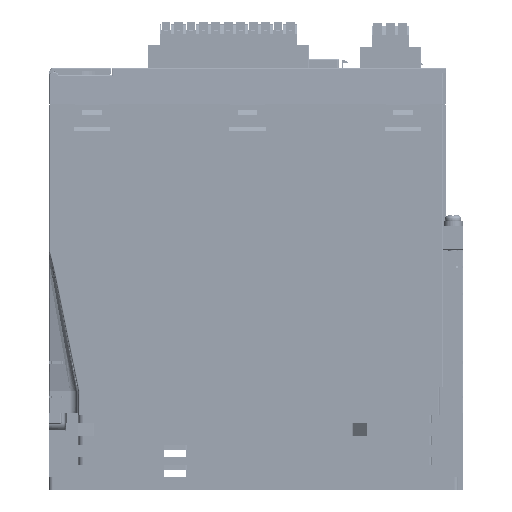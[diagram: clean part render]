
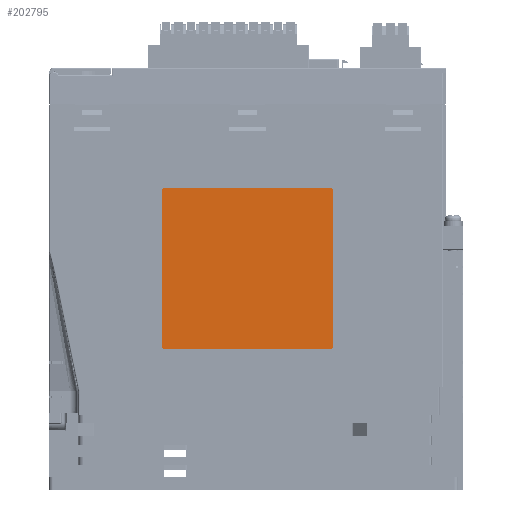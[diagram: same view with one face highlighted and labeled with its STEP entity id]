
A CAD part, left-side view. The second image highlights one B-rep face of the part: STEP entity #202795.
In plain terms, the highlighted planar face has unit normal (-1, 0, 0).
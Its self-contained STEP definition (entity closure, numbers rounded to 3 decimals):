
#3851=LINE('',#289359,#28775);
#3854=LINE('',#289365,#28778);
#3856=LINE('',#289370,#28780);
#3860=LINE('',#289377,#28784);
#28775=VECTOR('',#231920,63.);
#28778=VECTOR('',#231925,67.);
#28780=VECTOR('',#231929,63.);
#28784=VECTOR('',#231935,67.);
#51448=PLANE('',#214119);
#63619=FACE_OUTER_BOUND('',#74956,.T.);
#74956=EDGE_LOOP('',(#145475,#145476,#145477,#145478,#145479,#145480,#145481,
#145482));
#86509=CIRCLE('',#214120,1.5);
#86510=CIRCLE('',#214121,1.5);
#86511=CIRCLE('',#214122,1.5);
#86512=CIRCLE('',#214123,1.5);
#92047=VERTEX_POINT('',#289356);
#92048=VERTEX_POINT('',#289358);
#92049=VERTEX_POINT('',#289362);
#92050=VERTEX_POINT('',#289364);
#92051=VERTEX_POINT('',#289368);
#92052=VERTEX_POINT('',#289369);
#92053=VERTEX_POINT('',#289374);
#92054=VERTEX_POINT('',#289376);
#112917=EDGE_CURVE('',#92048,#92047,#3851,.T.);
#112920=EDGE_CURVE('',#92050,#92049,#3854,.T.);
#112922=EDGE_CURVE('',#92051,#92052,#3856,.T.);
#112926=EDGE_CURVE('',#92054,#92053,#3860,.T.);
#112928=EDGE_CURVE('',#92053,#92051,#86509,.T.);
#112929=EDGE_CURVE('',#92052,#92050,#86510,.T.);
#112930=EDGE_CURVE('',#92049,#92048,#86511,.T.);
#112931=EDGE_CURVE('',#92047,#92054,#86512,.T.);
#145475=ORIENTED_EDGE('',*,*,#112926,.T.);
#145476=ORIENTED_EDGE('',*,*,#112928,.T.);
#145477=ORIENTED_EDGE('',*,*,#112922,.T.);
#145478=ORIENTED_EDGE('',*,*,#112929,.T.);
#145479=ORIENTED_EDGE('',*,*,#112920,.T.);
#145480=ORIENTED_EDGE('',*,*,#112930,.T.);
#145481=ORIENTED_EDGE('',*,*,#112917,.T.);
#145482=ORIENTED_EDGE('',*,*,#112931,.T.);
#202795=ADVANCED_FACE('',(#63619),#51448,.T.);
#214119=AXIS2_PLACEMENT_3D('',#289379,#231937,#231938);
#214120=AXIS2_PLACEMENT_3D('',#289380,#231939,#231940);
#214121=AXIS2_PLACEMENT_3D('',#289381,#231941,#231942);
#214122=AXIS2_PLACEMENT_3D('',#289382,#231943,#231944);
#214123=AXIS2_PLACEMENT_3D('',#289383,#231945,#231946);
#231920=DIRECTION('',(0.,0.,-1.));
#231925=DIRECTION('',(0.,1.,0.));
#231929=DIRECTION('',(0.,0.,1.));
#231935=DIRECTION('',(0.,-1.,0.));
#231937=DIRECTION('center_axis',(-1.,0.,0.));
#231938=DIRECTION('ref_axis',(0.,0.,1.));
#231939=DIRECTION('center_axis',(-1.,0.,0.));
#231940=DIRECTION('ref_axis',(0.,0.,1.));
#231941=DIRECTION('center_axis',(-1.,0.,0.));
#231942=DIRECTION('ref_axis',(0.,0.,1.));
#231943=DIRECTION('center_axis',(-1.,0.,0.));
#231944=DIRECTION('ref_axis',(0.,0.,1.));
#231945=DIRECTION('center_axis',(-1.,0.,0.));
#231946=DIRECTION('ref_axis',(0.,0.,1.));
#289356=CARTESIAN_POINT('',(-37.8,38.5,22.));
#289358=CARTESIAN_POINT('',(-37.8,38.5,85.));
#289359=CARTESIAN_POINT('',(-37.8,38.5,20.5));
#289362=CARTESIAN_POINT('',(-37.8,37.,86.5));
#289364=CARTESIAN_POINT('',(-37.8,-30.,86.5));
#289365=CARTESIAN_POINT('',(-37.8,-31.5,86.5));
#289368=CARTESIAN_POINT('',(-37.8,-31.5,22.));
#289369=CARTESIAN_POINT('',(-37.8,-31.5,85.));
#289370=CARTESIAN_POINT('',(-37.8,-31.5,20.5));
#289374=CARTESIAN_POINT('',(-37.8,-30.,20.5));
#289376=CARTESIAN_POINT('',(-37.8,37.,20.5));
#289377=CARTESIAN_POINT('',(-37.8,-31.5,20.5));
#289379=CARTESIAN_POINT('Origin',(-37.8,38.5,86.5));
#289380=CARTESIAN_POINT('Origin',(-37.8,-30.,22.));
#289381=CARTESIAN_POINT('Origin',(-37.8,-30.,85.));
#289382=CARTESIAN_POINT('Origin',(-37.8,37.,85.));
#289383=CARTESIAN_POINT('Origin',(-37.8,37.,22.));
